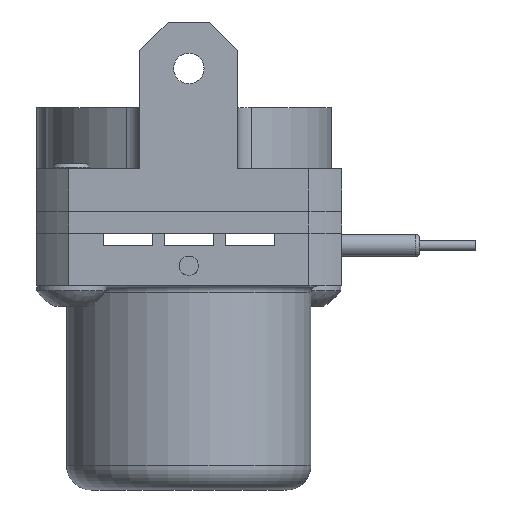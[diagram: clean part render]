
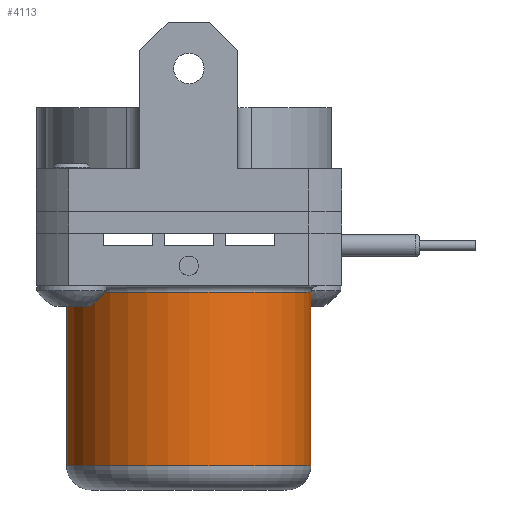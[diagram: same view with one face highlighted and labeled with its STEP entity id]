
A CAD part, front view. The second image highlights one B-rep face of the part: STEP entity #4113.
In plain terms, the highlighted cylindrical face has radius 10 mm (diameter 20 mm), a full revolution.
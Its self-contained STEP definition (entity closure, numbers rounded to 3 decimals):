
#68 = CARTESIAN_POINT ( 'NONE',  ( 0., 0., -21. ) ) ;
#101 = CARTESIAN_POINT ( 'NONE',  ( -10., 0., -19. ) ) ;
#192 = DIRECTION ( 'NONE',  ( 0., 0., 1. ) ) ;
#483 = VERTEX_POINT ( 'NONE', #6192 ) ;
#600 = CIRCLE ( 'NONE', #2163, 10. ) ;
#612 = DIRECTION ( 'NONE',  ( 1., 0., 0. ) ) ;
#986 = VERTEX_POINT ( 'NONE', #101 ) ;
#2136 = AXIS2_PLACEMENT_3D ( 'NONE', #5221, #6901, #6353 ) ;
#2163 = AXIS2_PLACEMENT_3D ( 'NONE', #6745, #192, #2284 ) ;
#2284 = DIRECTION ( 'NONE',  ( -1., 0., 0. ) ) ;
#2960 = FACE_OUTER_BOUND ( 'NONE', #6824, .T. ) ;
#3019 = EDGE_CURVE ( 'NONE', #986, #986, #600, .T. ) ;
#3766 = CIRCLE ( 'NONE', #2136, 10. ) ;
#4113 = ADVANCED_FACE ( 'NONE', ( #2960, #4176 ), #4881, .T. ) ;
#4176 = FACE_OUTER_BOUND ( 'NONE', #5304, .T. ) ;
#4429 = ORIENTED_EDGE ( 'NONE', *, *, #4654, .T. ) ;
#4654 = EDGE_CURVE ( 'NONE', #483, #483, #3766, .T. ) ;
#4881 = CYLINDRICAL_SURFACE ( 'NONE', #6612, 10. ) ;
#4990 = DIRECTION ( 'NONE',  ( 0., 0., 1. ) ) ;
#5221 = CARTESIAN_POINT ( 'NONE',  ( 0., 0., -4.8 ) ) ;
#5304 = EDGE_LOOP ( 'NONE', ( #5402 ) ) ;
#5402 = ORIENTED_EDGE ( 'NONE', *, *, #3019, .T. ) ;
#6192 = CARTESIAN_POINT ( 'NONE',  ( 10., 0., -4.8 ) ) ;
#6353 = DIRECTION ( 'NONE',  ( 1., 0., 0. ) ) ;
#6612 = AXIS2_PLACEMENT_3D ( 'NONE', #68, #4990, #612 ) ;
#6745 = CARTESIAN_POINT ( 'NONE',  ( 0., 0., -19. ) ) ;
#6824 = EDGE_LOOP ( 'NONE', ( #4429 ) ) ;
#6901 = DIRECTION ( 'NONE',  ( 0., 0., -1. ) ) ;
